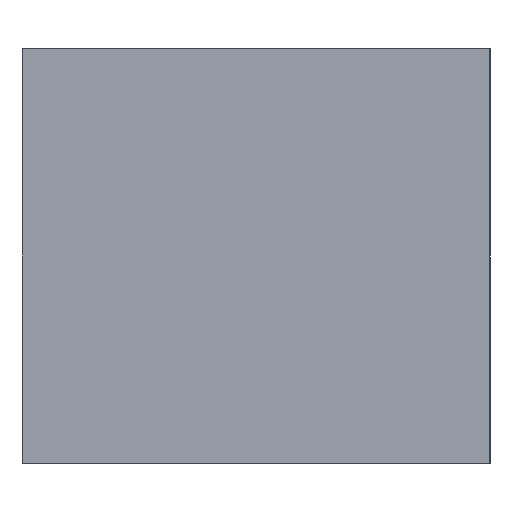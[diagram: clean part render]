
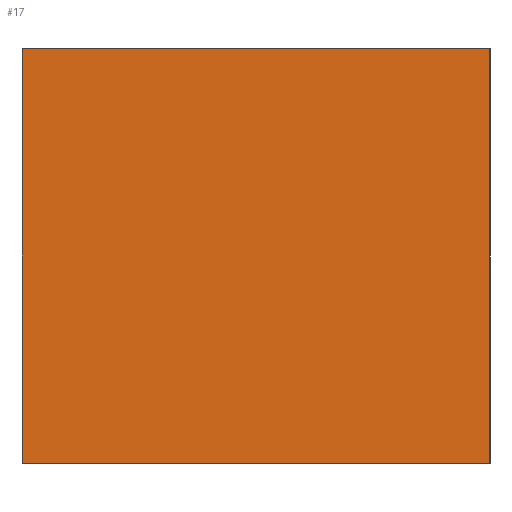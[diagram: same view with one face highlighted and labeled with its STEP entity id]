
A CAD part, left-side view. The second image highlights one B-rep face of the part: STEP entity #17.
In plain terms, the highlighted planar face has unit normal (-1, 0, 0).
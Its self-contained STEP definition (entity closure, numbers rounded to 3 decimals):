
#17 = ADVANCED_FACE('',(#18),#32,.F.);
#18 = FACE_BOUND('',#19,.F.);
#19 = EDGE_LOOP('',(#20,#55,#83,#111));
#20 = ORIENTED_EDGE('',*,*,#21,.F.);
#21 = EDGE_CURVE('',#22,#24,#26,.T.);
#22 = VERTEX_POINT('',#23);
#23 = CARTESIAN_POINT('',(-28.5,-52.94,-15.01));
#24 = VERTEX_POINT('',#25);
#25 = CARTESIAN_POINT('',(-28.5,-52.94,-14.301));
#26 = SURFACE_CURVE('',#27,(#31,#43),.PCURVE_S1.);
#27 = LINE('',#28,#29);
#28 = CARTESIAN_POINT('',(-28.5,-52.94,-15.01));
#29 = VECTOR('',#30,1.);
#30 = DIRECTION('',(0.,0.,1.));
#31 = PCURVE('',#32,#37);
#32 = PLANE('',#33);
#33 = AXIS2_PLACEMENT_3D('',#34,#35,#36);
#34 = CARTESIAN_POINT('',(-28.5,-52.94,-15.01));
#35 = DIRECTION('',(1.,0.,-0.));
#36 = DIRECTION('',(0.,0.,1.));
#37 = DEFINITIONAL_REPRESENTATION('',(#38),#42);
#38 = LINE('',#39,#40);
#39 = CARTESIAN_POINT('',(0.,0.));
#40 = VECTOR('',#41,1.);
#41 = DIRECTION('',(1.,0.));
#42 = ( GEOMETRIC_REPRESENTATION_CONTEXT(2) 
PARAMETRIC_REPRESENTATION_CONTEXT() REPRESENTATION_CONTEXT('2D SPACE',''
  ) );
#43 = PCURVE('',#44,#49);
#44 = PLANE('',#45);
#45 = AXIS2_PLACEMENT_3D('',#46,#47,#48);
#46 = CARTESIAN_POINT('',(-28.5,-52.94,-15.01));
#47 = DIRECTION('',(-0.,1.,0.));
#48 = DIRECTION('',(0.,0.,1.));
#49 = DEFINITIONAL_REPRESENTATION('',(#50),#54);
#50 = LINE('',#51,#52);
#51 = CARTESIAN_POINT('',(0.,0.));
#52 = VECTOR('',#53,1.);
#53 = DIRECTION('',(1.,0.));
#54 = ( GEOMETRIC_REPRESENTATION_CONTEXT(2) 
PARAMETRIC_REPRESENTATION_CONTEXT() REPRESENTATION_CONTEXT('2D SPACE',''
  ) );
#55 = ORIENTED_EDGE('',*,*,#56,.T.);
#56 = EDGE_CURVE('',#22,#57,#59,.T.);
#57 = VERTEX_POINT('',#58);
#58 = CARTESIAN_POINT('',(-28.5,-52.14,-15.01));
#59 = SURFACE_CURVE('',#60,(#64,#71),.PCURVE_S1.);
#60 = LINE('',#61,#62);
#61 = CARTESIAN_POINT('',(-28.5,-52.94,-15.01));
#62 = VECTOR('',#63,1.);
#63 = DIRECTION('',(-0.,1.,0.));
#64 = PCURVE('',#32,#65);
#65 = DEFINITIONAL_REPRESENTATION('',(#66),#70);
#66 = LINE('',#67,#68);
#67 = CARTESIAN_POINT('',(0.,0.));
#68 = VECTOR('',#69,1.);
#69 = DIRECTION('',(0.,-1.));
#70 = ( GEOMETRIC_REPRESENTATION_CONTEXT(2) 
PARAMETRIC_REPRESENTATION_CONTEXT() REPRESENTATION_CONTEXT('2D SPACE',''
  ) );
#71 = PCURVE('',#72,#77);
#72 = PLANE('',#73);
#73 = AXIS2_PLACEMENT_3D('',#74,#75,#76);
#74 = CARTESIAN_POINT('',(-28.5,-52.94,-15.01));
#75 = DIRECTION('',(0.,0.,1.));
#76 = DIRECTION('',(1.,0.,-0.));
#77 = DEFINITIONAL_REPRESENTATION('',(#78),#82);
#78 = LINE('',#79,#80);
#79 = CARTESIAN_POINT('',(0.,0.));
#80 = VECTOR('',#81,1.);
#81 = DIRECTION('',(0.,1.));
#82 = ( GEOMETRIC_REPRESENTATION_CONTEXT(2) 
PARAMETRIC_REPRESENTATION_CONTEXT() REPRESENTATION_CONTEXT('2D SPACE',''
  ) );
#83 = ORIENTED_EDGE('',*,*,#84,.T.);
#84 = EDGE_CURVE('',#57,#85,#87,.T.);
#85 = VERTEX_POINT('',#86);
#86 = CARTESIAN_POINT('',(-28.5,-52.14,-14.301));
#87 = SURFACE_CURVE('',#88,(#92,#99),.PCURVE_S1.);
#88 = LINE('',#89,#90);
#89 = CARTESIAN_POINT('',(-28.5,-52.14,-15.01));
#90 = VECTOR('',#91,1.);
#91 = DIRECTION('',(0.,0.,1.));
#92 = PCURVE('',#32,#93);
#93 = DEFINITIONAL_REPRESENTATION('',(#94),#98);
#94 = LINE('',#95,#96);
#95 = CARTESIAN_POINT('',(0.,-0.8));
#96 = VECTOR('',#97,1.);
#97 = DIRECTION('',(1.,0.));
#98 = ( GEOMETRIC_REPRESENTATION_CONTEXT(2) 
PARAMETRIC_REPRESENTATION_CONTEXT() REPRESENTATION_CONTEXT('2D SPACE',''
  ) );
#99 = PCURVE('',#100,#105);
#100 = PLANE('',#101);
#101 = AXIS2_PLACEMENT_3D('',#102,#103,#104);
#102 = CARTESIAN_POINT('',(-28.5,-52.14,-15.01));
#103 = DIRECTION('',(-0.,1.,0.));
#104 = DIRECTION('',(0.,0.,1.));
#105 = DEFINITIONAL_REPRESENTATION('',(#106),#110);
#106 = LINE('',#107,#108);
#107 = CARTESIAN_POINT('',(0.,0.));
#108 = VECTOR('',#109,1.);
#109 = DIRECTION('',(1.,0.));
#110 = ( GEOMETRIC_REPRESENTATION_CONTEXT(2) 
PARAMETRIC_REPRESENTATION_CONTEXT() REPRESENTATION_CONTEXT('2D SPACE',''
  ) );
#111 = ORIENTED_EDGE('',*,*,#112,.F.);
#112 = EDGE_CURVE('',#24,#85,#113,.T.);
#113 = SURFACE_CURVE('',#114,(#118,#125),.PCURVE_S1.);
#114 = LINE('',#115,#116);
#115 = CARTESIAN_POINT('',(-28.5,-52.94,-14.301));
#116 = VECTOR('',#117,1.);
#117 = DIRECTION('',(-0.,1.,0.));
#118 = PCURVE('',#32,#119);
#119 = DEFINITIONAL_REPRESENTATION('',(#120),#124);
#120 = LINE('',#121,#122);
#121 = CARTESIAN_POINT('',(0.709,0.));
#122 = VECTOR('',#123,1.);
#123 = DIRECTION('',(0.,-1.));
#124 = ( GEOMETRIC_REPRESENTATION_CONTEXT(2) 
PARAMETRIC_REPRESENTATION_CONTEXT() REPRESENTATION_CONTEXT('2D SPACE',''
  ) );
#125 = PCURVE('',#126,#131);
#126 = PLANE('',#127);
#127 = AXIS2_PLACEMENT_3D('',#128,#129,#130);
#128 = CARTESIAN_POINT('',(-28.5,-52.94,-14.301));
#129 = DIRECTION('',(0.,0.,1.));
#130 = DIRECTION('',(1.,0.,-0.));
#131 = DEFINITIONAL_REPRESENTATION('',(#132),#136);
#132 = LINE('',#133,#134);
#133 = CARTESIAN_POINT('',(0.,0.));
#134 = VECTOR('',#135,1.);
#135 = DIRECTION('',(0.,1.));
#136 = ( GEOMETRIC_REPRESENTATION_CONTEXT(2) 
PARAMETRIC_REPRESENTATION_CONTEXT() REPRESENTATION_CONTEXT('2D SPACE',''
  ) );
